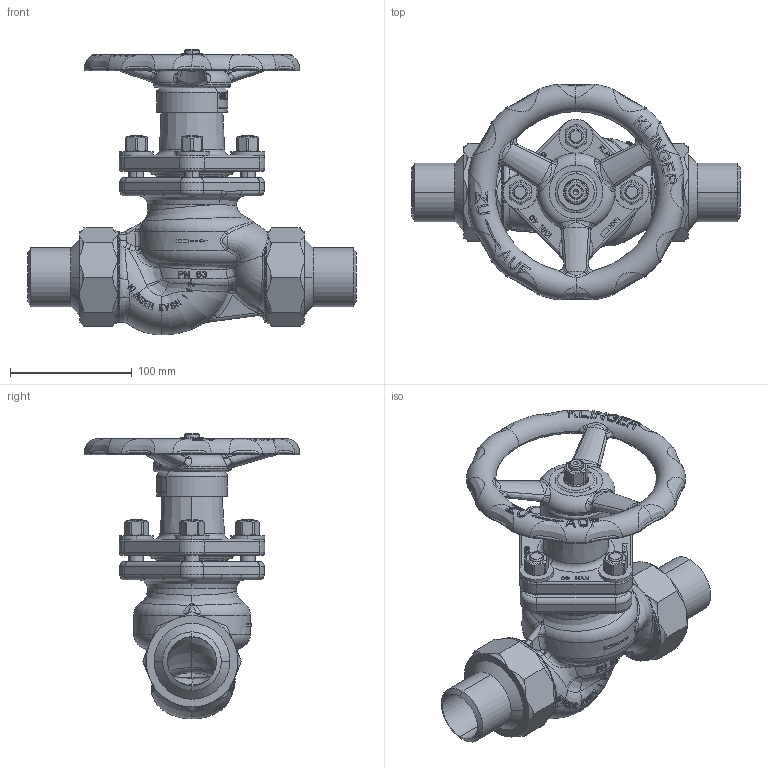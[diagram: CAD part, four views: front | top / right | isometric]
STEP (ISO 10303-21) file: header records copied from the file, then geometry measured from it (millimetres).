
FILE_DESCRIPTION((''),'2;1');
FILE_NAME('KVSN-040S-----P063PGG_SW0001','2015-07-09T',('jeitlers'),('RAND'),'PRO/ENGINEER BY PARAMETRIC TECHNOLOGY CORPORATION, 2013410','PRO/ENGINEER BY PARAMETRIC TECHNOLOGY CORPORATION, 2013410','');
FILE_SCHEMA(('CONFIG_CONTROL_DESIGN'));
Products named in the file (1): KVSN-040S-----P063PGG_SW0001
Bounding box: 270 x 177.48 x 235.3 mm (x, y, z)
Volume: 1038992.5 mm3; surface area: 272267 mm2
Topology: 1 solids, 3 shells, 2870 faces, 7676 edges, 4896 vertices
Faces by surface type: plane 1701, bspline 500, cylinder 361, torus 183, cone 117, extrusion 6, sphere 2
Entity records: 185730 total; most frequent: CARTESIAN_POINT 120398, ORIENTED_EDGE 15348, DIRECTION 10948, EDGE_CURVE 7674, VERTEX_POINT 4896, AXIS2_PLACEMENT_3D 3681, VECTOR 3586, LINE 3580
